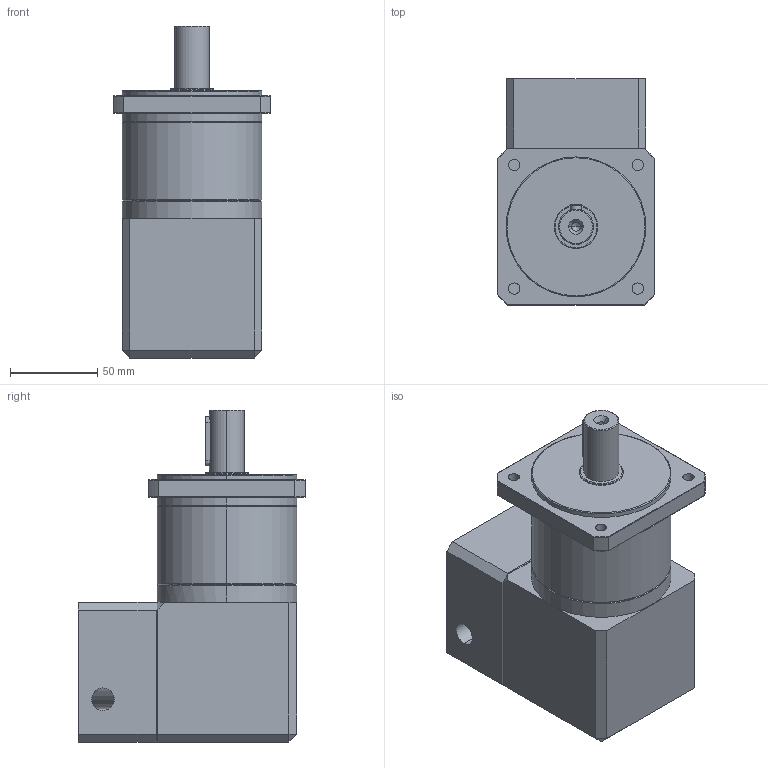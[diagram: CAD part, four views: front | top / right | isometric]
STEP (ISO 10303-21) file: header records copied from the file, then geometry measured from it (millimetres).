
FILE_DESCRIPTION (( 'STEP AP214' ), '1' );
FILE_NAME ('WPF80-L1-19×40-70-90M6 三维零件图.STEP', '2021-08-07T00:33:12', ( 'XJJ' ), ( '' ), 'SwSTEP 2.0', 'SolidWorks 2016', '' );
FILE_SCHEMA (( 'AUTOMOTIVE_DESIGN' ));
Length unit declared in the file: millimetre
Products named in the file (3): hexagon socket head cap screws gb_GB_FASTENER_SCREWS_HSHCS M5X16-N; WPF80-L1-19×40-70-90M6 三维零件图
Assembly tree (2 placements, depth 2):
  WPF80-L1-19×40-70-90M6 三维零件图
    WPF80-L1-19×40-70-90M6 三维零件图
    hexagon socket head cap screws gb_GB_FASTENER_SCREWS_HSHCS M5X16-N
Bounding box: 90 x 130 x 190 mm (x, y, z)
Volume: 1135397.9 mm3; surface area: 93774 mm2
Topology: 2 solids, 2 shells, 196 faces, 450 edges, 262 vertices
Faces by surface type: plane 79, cylinder 62, cone 44, torus 11
Entity records: 6033 total; most frequent: CARTESIAN_POINT 1301, DIRECTION 984, ORIENTED_EDGE 876, EDGE_CURVE 438, AXIS2_PLACEMENT_3D 375, VERTEX_POINT 262, VECTOR 234, LINE 234
